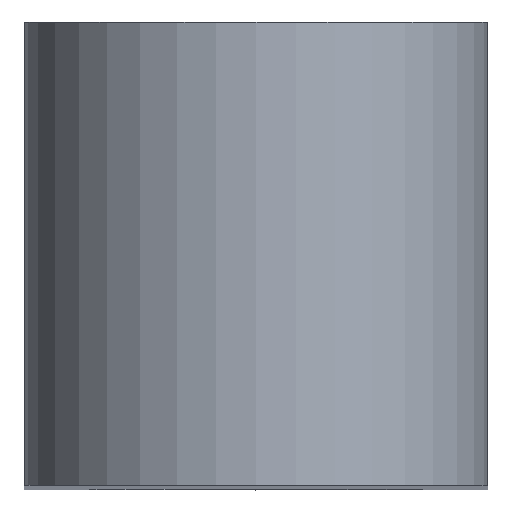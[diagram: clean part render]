
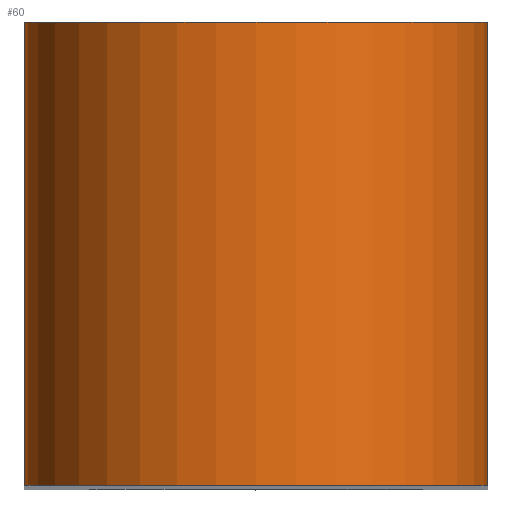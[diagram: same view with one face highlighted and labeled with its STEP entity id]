
A CAD part, top view. The second image highlights one B-rep face of the part: STEP entity #60.
In plain terms, the highlighted cylindrical face has radius 4 mm (diameter 8 mm), a partial arc.
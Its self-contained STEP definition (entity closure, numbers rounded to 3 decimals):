
#60=ADVANCED_FACE('',(#122),#124,.T.);
#122=FACE_BOUND('',#123,.T.);
#123=EDGE_LOOP('',(#157,#158,#159,#160));
#124=CYLINDRICAL_SURFACE('',#125,4.);
#125=AXIS2_PLACEMENT_3D('',#126,#127,#128);
#126=CARTESIAN_POINT('',(-28.945,22.561,79.474));
#127=DIRECTION('',(0.,1.,0.));
#128=DIRECTION('',(-1.,0.,0.));
#157=ORIENTED_EDGE('',*,*,#164,.T.);
#158=ORIENTED_EDGE('',*,*,#176,.T.);
#159=ORIENTED_EDGE('',*,*,#167,.F.);
#160=ORIENTED_EDGE('',*,*,#173,.F.);
#164=EDGE_CURVE('',#178,#182,#184,.T.);
#167=EDGE_CURVE('',#189,#190,#191,.T.);
#173=EDGE_CURVE('',#178,#189,#201,.T.);
#176=EDGE_CURVE('',#182,#190,#204,.T.);
#178=VERTEX_POINT('',#206);
#182=VERTEX_POINT('',#215);
#184=CIRCLE('',#219,4.);
#189=VERTEX_POINT('',#233);
#190=VERTEX_POINT('',#234);
#191=CIRCLE('',#235,4.);
#201=LINE('',#261,#262);
#204=LINE('',#270,#271);
#206=CARTESIAN_POINT('',(-32.945,22.561,79.474));
#215=CARTESIAN_POINT('',(-24.945,22.561,79.474));
#219=AXIS2_PLACEMENT_3D('',#220,#221,#222);
#220=CARTESIAN_POINT('',(-28.945,22.561,79.474));
#221=DIRECTION('',(0.,1.,0.));
#222=DIRECTION('',(-1.,0.,0.));
#233=CARTESIAN_POINT('',(-32.945,30.561,79.474));
#234=CARTESIAN_POINT('',(-24.945,30.561,79.474));
#235=AXIS2_PLACEMENT_3D('',#236,#237,#238);
#236=CARTESIAN_POINT('',(-28.945,30.561,79.474));
#237=DIRECTION('',(0.,1.,0.));
#238=DIRECTION('',(-1.,0.,0.));
#261=CARTESIAN_POINT('',(-32.945,22.561,79.474));
#262=VECTOR('',#263,1.);
#263=DIRECTION('',(0.,1.,0.));
#270=CARTESIAN_POINT('',(-24.945,22.561,79.474));
#271=VECTOR('',#272,1.);
#272=DIRECTION('',(0.,1.,0.));
